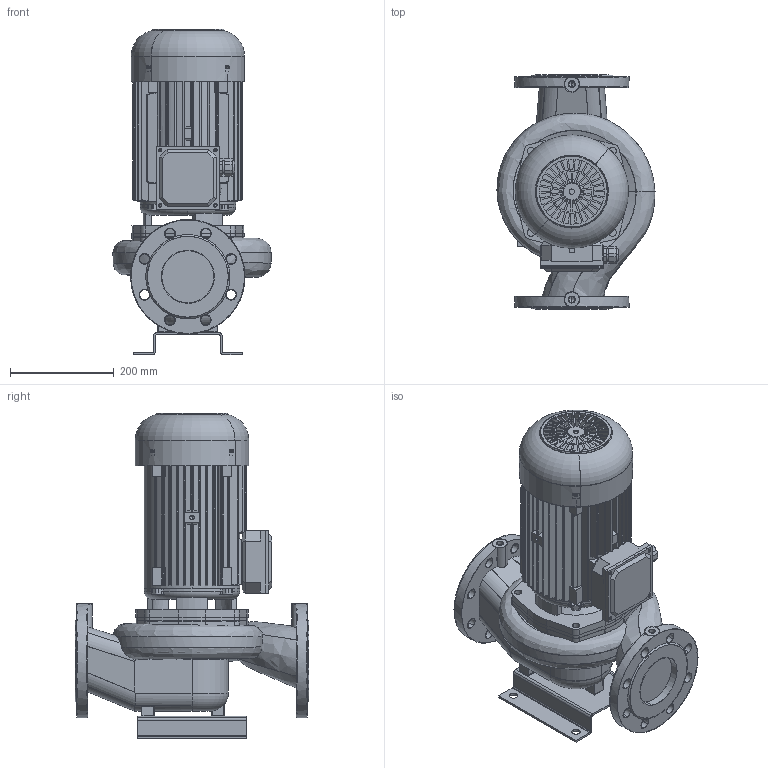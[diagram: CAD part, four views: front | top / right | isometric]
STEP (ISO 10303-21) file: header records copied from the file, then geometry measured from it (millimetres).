
FILE_DESCRIPTION(('STEP AP214'),'1');
FILE_NAME('export.stp','2018-05-28T10:02:51',(' '),(' '),'Spatial InterOp 3D',' ',' ');
FILE_SCHEMA(('AUTOMOTIVE_DESIGN { 1 0 10303 214 1 1 1 1 }'));
Length unit declared in the file: millimetre
Products named in the file (14): 440017; 440016; V_MKP112F19; 440015___; 440018; 440021; 480022; 480020; M25_Blind_Plug; M25_tiivisteholkk; W_AL11022400KP112; V_TLL65AB80A1102; V_PPAL1102; V_JALKA35973
Assembly tree (13 placements, depth 4):
  W_AL11022400KP112
    V_MKP112F19
      440017
        440016
      440015___
      440018
      440021
      480022
      480020
      M25_Blind_Plug
      M25_tiivisteholkk
    V_TLL65AB80A1102
    V_PPAL1102
    V_JALKA35973
Bounding box: 304.07 x 450 x 626.2 mm (x, y, z)
Volume: 3396551.5 mm3; surface area: 2301004 mm2
Topology: 11 solids, 11 shells, 1838 faces, 5229 edges, 3430 vertices
Faces by surface type: cylinder 929, plane 624, cone 142, torus 97, bspline 38, offset 8
Entity records: 79118 total; most frequent: CARTESIAN_POINT 24372, ORIENTED_EDGE 10406, DIRECTION 10024, EDGE_CURVE 5203, AXIS2_PLACEMENT_3D 3837, VERTEX_POINT 3430, LINE 2350, VECTOR 2350
